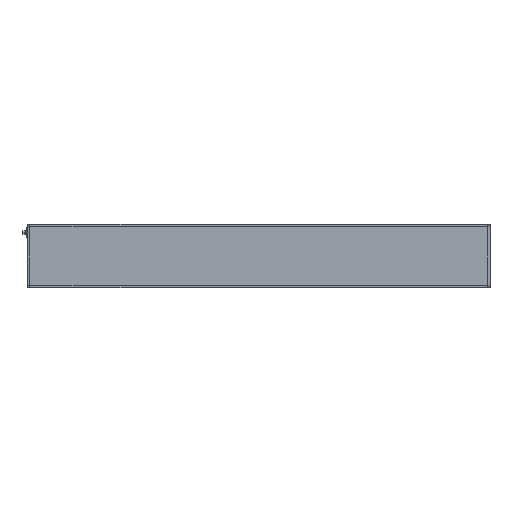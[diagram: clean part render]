
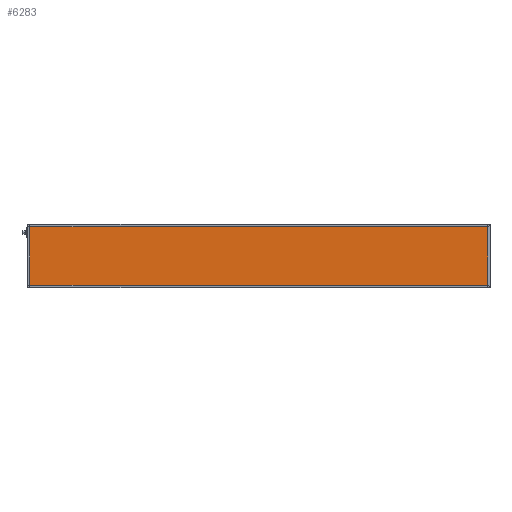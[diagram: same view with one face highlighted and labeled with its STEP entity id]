
A CAD part, top view. The second image highlights one B-rep face of the part: STEP entity #6283.
In plain terms, the highlighted planar face has unit normal (0, 0, 1).
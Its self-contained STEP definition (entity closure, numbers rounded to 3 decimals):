
#90 = CARTESIAN_POINT ( 'NONE',  ( 1496., 0., 41.85 ) ) ;
#255 = LINE ( 'NONE', #14723, #9153 ) ;
#1382 = EDGE_CURVE ( 'NONE', #2089, #14760, #255, .T. ) ;
#1383 = DIRECTION ( 'NONE',  ( -1., 0., 0. ) ) ;
#1497 = CARTESIAN_POINT ( 'NONE',  ( 1496., 196., 41.85 ) ) ;
#2089 = VERTEX_POINT ( 'NONE', #1497 ) ;
#2235 = EDGE_LOOP ( 'NONE', ( #5531, #10688, #4693, #15491 ) ) ;
#2304 = DIRECTION ( 'NONE',  ( 1., 0., 0. ) ) ;
#3878 = CARTESIAN_POINT ( 'NONE',  ( 0., 4., 41.85 ) ) ;
#4693 = ORIENTED_EDGE ( 'NONE', *, *, #16098, .T. ) ;
#5216 = CARTESIAN_POINT ( 'NONE',  ( 4., 4., 41.85 ) ) ;
#5531 = ORIENTED_EDGE ( 'NONE', *, *, #15477, .T. ) ;
#5706 = VECTOR ( 'NONE', #2304, 1000. ) ;
#5993 = AXIS2_PLACEMENT_3D ( 'NONE', #9328, #14637, #1383 ) ;
#6283 = ADVANCED_FACE ( 'NONE', ( #6529 ), #13336, .F. ) ;
#6529 = FACE_OUTER_BOUND ( 'NONE', #2235, .T. ) ;
#6641 = LINE ( 'NONE', #90, #10195 ) ;
#8205 = VERTEX_POINT ( 'NONE', #9298 ) ;
#8779 = VECTOR ( 'NONE', #9219, 1000. ) ;
#9153 = VECTOR ( 'NONE', #16112, 1000. ) ;
#9219 = DIRECTION ( 'NONE',  ( 0., -1., 0. ) ) ;
#9255 = DIRECTION ( 'NONE',  ( 0., 1., 0. ) ) ;
#9298 = CARTESIAN_POINT ( 'NONE',  ( 1496., 4., 41.85 ) ) ;
#9328 = CARTESIAN_POINT ( 'NONE',  ( 0., 0., 41.85 ) ) ;
#10195 = VECTOR ( 'NONE', #9255, 1000. ) ;
#10688 = ORIENTED_EDGE ( 'NONE', *, *, #1382, .T. ) ;
#11737 = LINE ( 'NONE', #3878, #5706 ) ;
#11910 = LINE ( 'NONE', #14251, #8779 ) ;
#13336 = PLANE ( 'NONE',  #5993 ) ;
#14246 = CARTESIAN_POINT ( 'NONE',  ( 4., 196., 41.85 ) ) ;
#14251 = CARTESIAN_POINT ( 'NONE',  ( 4., 0., 41.85 ) ) ;
#14637 = DIRECTION ( 'NONE',  ( 0., 0., -1. ) ) ;
#14723 = CARTESIAN_POINT ( 'NONE',  ( 0., 196., 41.85 ) ) ;
#14760 = VERTEX_POINT ( 'NONE', #14246 ) ;
#15477 = EDGE_CURVE ( 'NONE', #8205, #2089, #6641, .T. ) ;
#15491 = ORIENTED_EDGE ( 'NONE', *, *, #16109, .T. ) ;
#15839 = VERTEX_POINT ( 'NONE', #5216 ) ;
#16098 = EDGE_CURVE ( 'NONE', #14760, #15839, #11910, .T. ) ;
#16109 = EDGE_CURVE ( 'NONE', #15839, #8205, #11737, .T. ) ;
#16112 = DIRECTION ( 'NONE',  ( -1., 0., 0. ) ) ;
